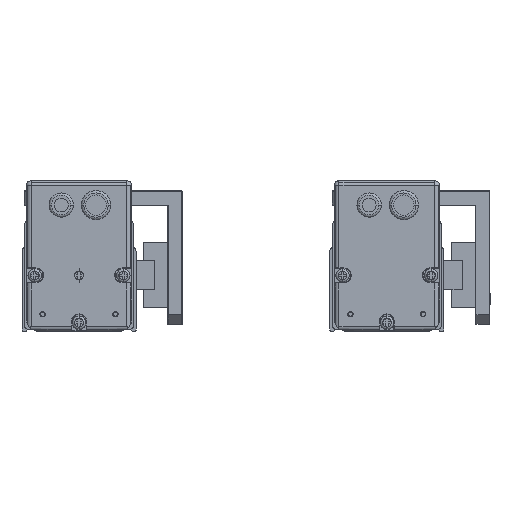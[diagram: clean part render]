
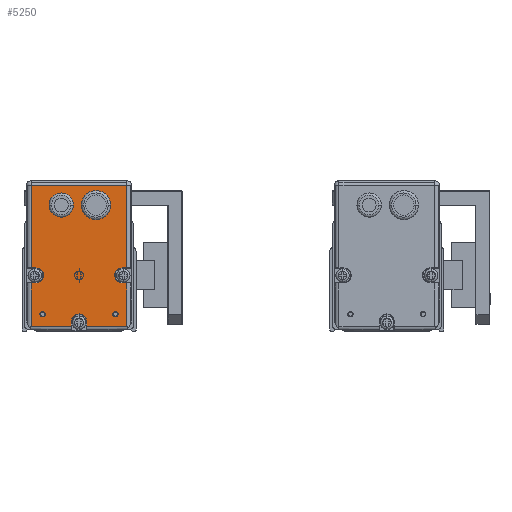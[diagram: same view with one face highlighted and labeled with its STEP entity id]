
A CAD part, left-side view. The second image highlights one B-rep face of the part: STEP entity #5250.
In plain terms, the highlighted planar face has unit normal (-1, 0, 0).
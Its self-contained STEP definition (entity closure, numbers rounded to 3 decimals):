
#5250=ADVANCED_FACE('',(#13327,#13328,#13329),#13330,.F.);
#13327=FACE_OUTER_BOUND('',#24933,.T.);
#13328=FACE_BOUND('',#24934,.T.);
#13329=FACE_BOUND('',#24935,.T.);
#13330=PLANE('',#24936);
#24933=EDGE_LOOP('',(#39233,#39234,#39235,#39236,#39237,#39238,#39239,#39240,#39241,#39242,#39243,#39244,#39245,#39246,#39247,#39248,#39249));
#24934=EDGE_LOOP('',(#39250,#39251));
#24935=EDGE_LOOP('',(#39252,#39253));
#24936=AXIS2_PLACEMENT_3D('',#39254,#39255,#39256);
#39233=ORIENTED_EDGE('',*,*,#70607,.F.);
#39234=ORIENTED_EDGE('',*,*,#68491,.F.);
#39235=ORIENTED_EDGE('',*,*,#70608,.F.);
#39236=ORIENTED_EDGE('',*,*,#70609,.F.);
#39237=ORIENTED_EDGE('',*,*,#70610,.F.);
#39238=ORIENTED_EDGE('',*,*,#70611,.F.);
#39239=ORIENTED_EDGE('',*,*,#69337,.F.);
#39240=ORIENTED_EDGE('',*,*,#70612,.F.);
#39241=ORIENTED_EDGE('',*,*,#70613,.F.);
#39242=ORIENTED_EDGE('',*,*,#70614,.F.);
#39243=ORIENTED_EDGE('',*,*,#70615,.F.);
#39244=ORIENTED_EDGE('',*,*,#69732,.F.);
#39245=ORIENTED_EDGE('',*,*,#70616,.F.);
#39246=ORIENTED_EDGE('',*,*,#70617,.F.);
#39247=ORIENTED_EDGE('',*,*,#70618,.F.);
#39248=ORIENTED_EDGE('',*,*,#70619,.F.);
#39249=ORIENTED_EDGE('',*,*,#70620,.F.);
#39250=ORIENTED_EDGE('',*,*,#70621,.F.);
#39251=ORIENTED_EDGE('',*,*,#70622,.F.);
#39252=ORIENTED_EDGE('',*,*,#70623,.F.);
#39253=ORIENTED_EDGE('',*,*,#70624,.F.);
#39254=CARTESIAN_POINT('',(1159.326,643.579,378.927));
#39255=DIRECTION('',(1.0,0.0,0.0));
#39256=DIRECTION('',(0.0,0.0,-1.0));
#68491=EDGE_CURVE('',#81552,#81554,#81555,.T.);
#69337=EDGE_CURVE('',#83109,#83111,#83112,.T.);
#69732=EDGE_CURVE('',#83791,#83793,#83794,.T.);
#70607=EDGE_CURVE('',#81554,#85272,#85273,.T.);
#70608=EDGE_CURVE('',#85274,#81552,#85275,.T.);
#70609=EDGE_CURVE('',#85276,#85274,#85277,.T.);
#70610=EDGE_CURVE('',#85278,#85276,#85279,.T.);
#70611=EDGE_CURVE('',#83111,#85278,#85280,.T.);
#70612=EDGE_CURVE('',#85281,#83109,#85282,.T.);
#70613=EDGE_CURVE('',#85283,#85281,#85284,.T.);
#70614=EDGE_CURVE('',#85285,#85283,#85286,.T.);
#70615=EDGE_CURVE('',#83793,#85285,#85287,.T.);
#70616=EDGE_CURVE('',#83593,#83791,#85288,.T.);
#70617=EDGE_CURVE('',#85289,#83593,#85290,.T.);
#70618=EDGE_CURVE('',#85291,#85289,#85292,.T.);
#70619=EDGE_CURVE('',#85293,#85291,#85294,.T.);
#70620=EDGE_CURVE('',#85272,#85293,#85295,.T.);
#70621=EDGE_CURVE('',#85296,#85297,#85298,.T.);
#70622=EDGE_CURVE('',#85297,#85296,#85299,.T.);
#70623=EDGE_CURVE('',#85300,#85301,#85302,.T.);
#70624=EDGE_CURVE('',#85301,#85300,#85303,.T.);
#81552=VERTEX_POINT('',#100247);
#81554=VERTEX_POINT('',#100249);
#81555=LINE('',#100250,#100251);
#83109=VERTEX_POINT('',#102289);
#83111=VERTEX_POINT('',#102291);
#83112=LINE('',#102292,#102293);
#83593=VERTEX_POINT('',#102876);
#83791=VERTEX_POINT('',#103129);
#83793=VERTEX_POINT('',#103131);
#83794=LINE('',#103132,#103133);
#85272=VERTEX_POINT('',#105065);
#85273=LINE('',#105066,#105067);
#85274=VERTEX_POINT('',#105068);
#85275=LINE('',#105069,#105070);
#85276=VERTEX_POINT('',#105071);
#85277=LINE('',#105072,#105073);
#85278=VERTEX_POINT('',#105074);
#85279=CIRCLE('',#105075,3.1);
#85280=CIRCLE('',#105076,3.1);
#85281=VERTEX_POINT('',#105077);
#85282=LINE('',#105078,#105079);
#85283=VERTEX_POINT('',#105080);
#85284=LINE('',#105081,#105082);
#85285=VERTEX_POINT('',#105083);
#85286=LINE('',#105084,#105085);
#85287=CIRCLE('',#105086,3.1);
#85288=LINE('',#105087,#105088);
#85289=VERTEX_POINT('',#105089);
#85290=LINE('',#105090,#105091);
#85291=VERTEX_POINT('',#105092);
#85292=LINE('',#105093,#105094);
#85293=VERTEX_POINT('',#105095);
#85294=LINE('',#105096,#105097);
#85295=CIRCLE('',#105098,3.1);
#85296=VERTEX_POINT('',#105099);
#85297=VERTEX_POINT('',#105100);
#85298=CIRCLE('',#105101,1.1);
#85299=CIRCLE('',#105102,1.1);
#85300=VERTEX_POINT('',#105103);
#85301=VERTEX_POINT('',#105104);
#85302=CIRCLE('',#105105,1.1);
#85303=CIRCLE('',#105106,1.1);
#100247=CARTESIAN_POINT('',(1159.326,663.329,349.927));
#100249=CARTESIAN_POINT('',(1159.326,663.329,367.827));
#100250=CARTESIAN_POINT('',(1159.326,663.329,378.927));
#100251=VECTOR('',#123795,1.0);
#102289=CARTESIAN_POINT('',(1159.326,640.479,349.927));
#102291=CARTESIAN_POINT('',(1159.326,640.479,351.927));
#102292=CARTESIAN_POINT('',(1159.326,640.479,365.177));
#102293=VECTOR('',#125030,1.0);
#102876=CARTESIAN_POINT('',(1159.326,623.829,407.927));
#103129=CARTESIAN_POINT('',(1159.326,623.829,374.027));
#103131=CARTESIAN_POINT('',(1159.326,625.829,374.027));
#103132=CARTESIAN_POINT('',(1159.326,634.454,374.027));
#103133=VECTOR('',#125656,1.0);
#105065=CARTESIAN_POINT('',(1159.326,661.329,367.827));
#105066=CARTESIAN_POINT('',(1159.326,652.704,367.827));
#105067=VECTOR('',#126932,1.0);
#105068=CARTESIAN_POINT('',(1159.326,646.679,349.927));
#105069=CARTESIAN_POINT('',(1159.326,643.579,349.927));
#105070=VECTOR('',#126933,1.0);
#105071=CARTESIAN_POINT('',(1159.326,646.679,351.927));
#105072=CARTESIAN_POINT('',(1159.326,646.679,365.177));
#105073=VECTOR('',#126934,1.0);
#105074=CARTESIAN_POINT('',(1159.326,643.579,355.027));
#105075=AXIS2_PLACEMENT_3D('',#126935,#126936,#126937);
#105076=AXIS2_PLACEMENT_3D('',#126938,#126939,#126940);
#105077=CARTESIAN_POINT('',(1159.326,623.829,349.927));
#105078=CARTESIAN_POINT('',(1159.326,643.579,349.927));
#105079=VECTOR('',#126941,1.0);
#105080=CARTESIAN_POINT('',(1159.326,623.829,367.827));
#105081=CARTESIAN_POINT('',(1159.326,623.829,378.927));
#105082=VECTOR('',#126942,1.0);
#105083=CARTESIAN_POINT('',(1159.326,625.829,367.827));
#105084=CARTESIAN_POINT('',(1159.326,634.454,367.827));
#105085=VECTOR('',#126943,1.0);
#105086=AXIS2_PLACEMENT_3D('',#126944,#126945,#126946);
#105087=CARTESIAN_POINT('',(1159.326,623.829,378.927));
#105088=VECTOR('',#126947,1.0);
#105089=CARTESIAN_POINT('',(1159.326,663.329,407.927));
#105090=CARTESIAN_POINT('',(1159.326,643.579,407.927));
#105091=VECTOR('',#126948,1.0);
#105092=CARTESIAN_POINT('',(1159.326,663.329,374.027));
#105093=CARTESIAN_POINT('',(1159.326,663.329,378.927));
#105094=VECTOR('',#126949,1.0);
#105095=CARTESIAN_POINT('',(1159.326,661.329,374.027));
#105096=CARTESIAN_POINT('',(1159.326,652.704,374.027));
#105097=VECTOR('',#126950,1.0);
#105098=AXIS2_PLACEMENT_3D('',#126951,#126952,#126953);
#105099=CARTESIAN_POINT('',(1159.326,628.579,356.027));
#105100=CARTESIAN_POINT('',(1159.326,628.579,353.827));
#105101=AXIS2_PLACEMENT_3D('',#126954,#126955,#126956);
#105102=AXIS2_PLACEMENT_3D('',#126957,#126958,#126959);
#105103=CARTESIAN_POINT('',(1159.326,658.579,356.027));
#105104=CARTESIAN_POINT('',(1159.326,658.579,353.827));
#105105=AXIS2_PLACEMENT_3D('',#126960,#126961,#126962);
#105106=AXIS2_PLACEMENT_3D('',#126963,#126964,#126965);
#123795=DIRECTION('',(0.0,0.0,1.0));
#125030=DIRECTION('',(0.0,0.0,1.0));
#125656=DIRECTION('',(0.0,1.0,0.0));
#126932=DIRECTION('',(0.0,-1.0,0.0));
#126933=DIRECTION('',(0.0,1.0,0.0));
#126934=DIRECTION('',(0.0,0.0,-1.0));
#126935=CARTESIAN_POINT('',(1159.326,643.579,351.927));
#126936=DIRECTION('',(-1.0,0.0,0.0));
#126937=DIRECTION('',(0.0,0.0,1.0));
#126938=CARTESIAN_POINT('',(1159.326,643.579,351.927));
#126939=DIRECTION('',(-1.0,0.0,0.0));
#126940=DIRECTION('',(0.0,0.0,1.0));
#126941=DIRECTION('',(0.0,1.0,0.0));
#126942=DIRECTION('',(0.0,0.0,-1.0));
#126943=DIRECTION('',(0.0,-1.0,0.0));
#126944=CARTESIAN_POINT('',(1159.326,625.829,370.927));
#126945=DIRECTION('',(-1.0,0.0,0.0));
#126946=DIRECTION('',(0.0,1.0,0.));
#126947=DIRECTION('',(0.0,0.0,-1.0));
#126948=DIRECTION('',(0.0,-1.0,0.0));
#126949=DIRECTION('',(0.0,0.0,1.0));
#126950=DIRECTION('',(0.0,1.0,0.0));
#126951=CARTESIAN_POINT('',(1159.326,661.329,370.927));
#126952=DIRECTION('',(-1.0,0.0,0.0));
#126953=DIRECTION('',(0.0,-1.0,0.));
#126954=CARTESIAN_POINT('',(1159.326,628.579,354.927));
#126955=DIRECTION('',(-1.0,0.0,0.0));
#126956=DIRECTION('',(0.0,0.0,-1.0));
#126957=CARTESIAN_POINT('',(1159.326,628.579,354.927));
#126958=DIRECTION('',(-1.0,0.0,0.0));
#126959=DIRECTION('',(0.0,0.0,-1.0));
#126960=CARTESIAN_POINT('',(1159.326,658.579,354.927));
#126961=DIRECTION('',(-1.0,0.0,0.0));
#126962=DIRECTION('',(0.0,0.0,-1.0));
#126963=CARTESIAN_POINT('',(1159.326,658.579,354.927));
#126964=DIRECTION('',(-1.0,0.0,0.0));
#126965=DIRECTION('',(0.0,0.0,-1.0));
